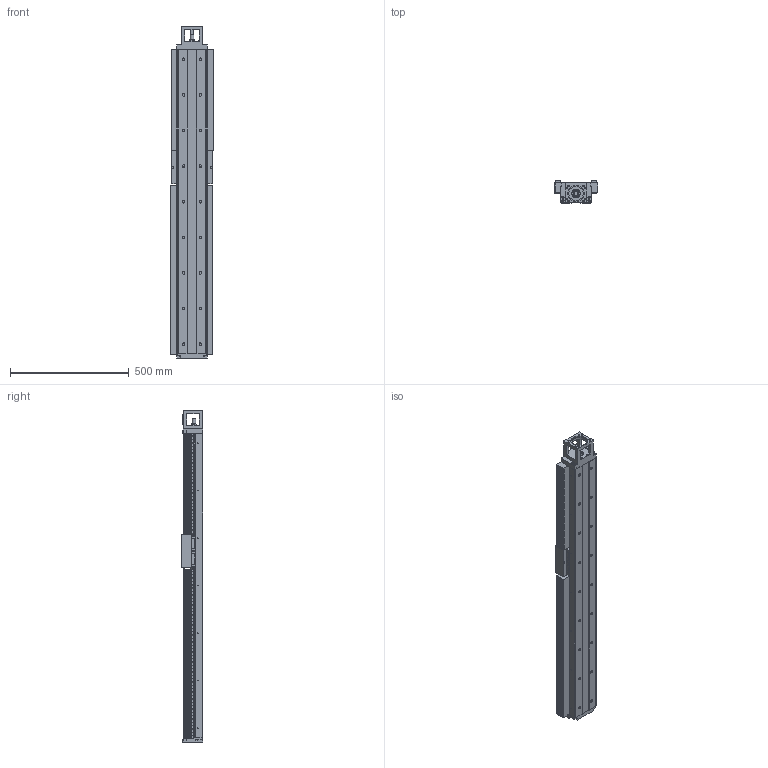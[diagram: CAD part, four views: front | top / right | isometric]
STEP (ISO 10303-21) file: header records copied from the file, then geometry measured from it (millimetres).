
FILE_DESCRIPTION(/* description */ (''),/* implementation_level */ '2;1');
FILE_NAME(/* name */ 'TKK130-1280A1F0B.stp',/* time_stamp */ '2017-01-23T08:31:02+08:00',/* author */ (''),/* organization */ (''),/* preprocessor_version */ 'ST-DEVELOPER v15',/* originating_system */ 'SIEMENS PLM Software NX 8.5',/* authorisation */ '');
FILE_SCHEMA (('AUTOMOTIVE_DESIGN { 1 0 10303 214 3 1 1 1 }'));
Products named in the file (3): 022; 011; TKK130-1280A1F0B
Assembly tree (2 placements, depth 2):
  TKK130-1280A1F0B
    011
    022
Bounding box: 184 x 92 x 1398 mm (x, y, z)
Volume: 13987888.8 mm3; surface area: 1660060.8 mm2
Topology: 5 solids, 47 shells, 2839 faces, 6953 edges, 4229 vertices
Faces by surface type: plane 2338, cylinder 334, cone 127, extrusion 33, bspline 6, torus 1
Full cylindrical faces by diameter (mm): 2.1 x14, 2.5 x8, 3.3 x58, 4.5 x20, 5 x23, 6.6 x10, 6.8 x12, 7 x2, 8 x16, 8.5 x4, 9 x8, 11 x26, 12 x4, 15 x1, 16.3 x1, 17 x20, 17.5 x4, 25 x1, 35 x2, 40 x3, 60.03 x1, 70.03 x1
Entity records: 79298 total; most frequent: CARTESIAN_POINT 15067, ORIENTED_EDGE 12602, DIRECTION 12476, EDGE_CURVE 6301, VECTOR 5406, LINE 5373, VERTEX_POINT 4046, AXIS2_PLACEMENT_3D 3535
